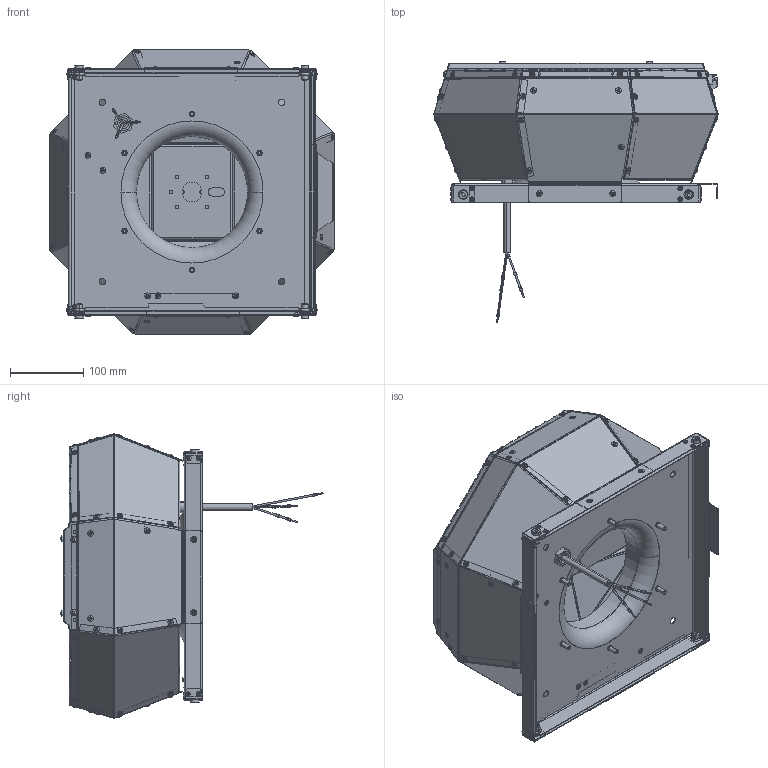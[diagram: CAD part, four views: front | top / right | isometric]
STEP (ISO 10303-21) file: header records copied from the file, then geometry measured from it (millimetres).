
FILE_DESCRIPTION (( 'STEP AP203' ), '1' );
FILE_NAME ('139334-00_DVA220E4P31.STEP', '2017-03-31T09:41:52', ( '' ), ( '' ), 'SwSTEP 2.0', 'SolidWorks 2012', '' );
FILE_SCHEMA (( 'CONFIG_CONTROL_DESIGN' ));
Products named in the file (1): 139334-00_DVA220E4P31
Bounding box: 388.45 x 357.99 x 388.42 mm (x, y, z)
Surface area: 1122028 mm2 (no closed solid volume)
Topology: 0 solids, 215 shells, 2646 faces, 8524 edges, 5819 vertices
Faces by surface type: plane 1489, cylinder 745, torus 302, bspline 84, cone 26
Entity records: 96233 total; most frequent: CARTESIAN_POINT 21398, DIRECTION 15746, ORIENTED_EDGE 13525, EDGE_CURVE 8524, VERTEX_POINT 5819, VECTOR 5258, LINE 5258, AXIS2_PLACEMENT_3D 5244
